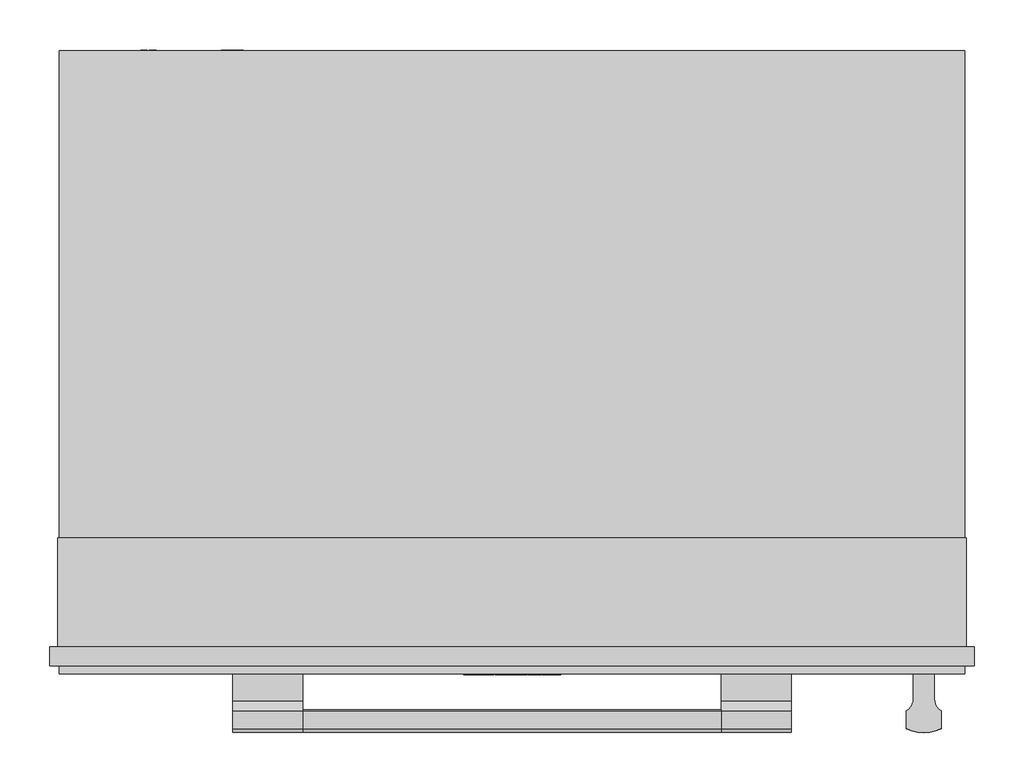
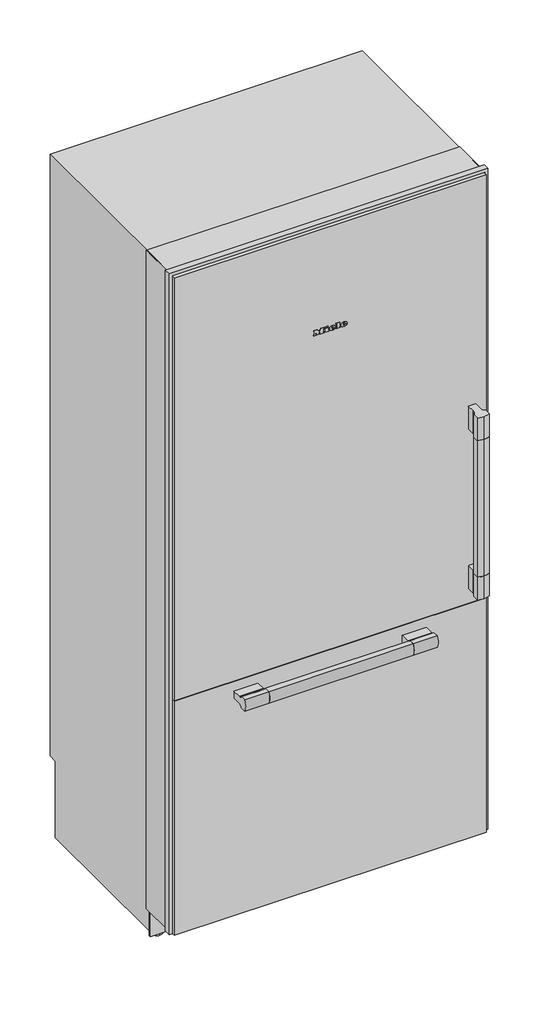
# Not in any storey: 1 proxy.
"""IFC4 building model written with IfcOpenShell, lengths in millimetres."""

from ifc_helpers import new_model, si_unit, origin, place, context, project, spatial, transform, mapped, element, save
from components import specialty_equipment_9384840f

model = new_model("IFC4")

# Units and contexts
model_context = context("Model", 3, world=origin())
ifc_project = project(units=[si_unit("LENGTHUNIT", "METRE", prefix="MILLI")], contexts=[model_context])

# Site, building
site = spatial("IfcSite", under=ifc_project)
building = spatial("IfcBuilding", under=site)

# Proxy
placement = place(None, origin())
specialty_equipment_shape = specialty_equipment_9384840f(model_context)
element("IfcBuildingElementProxy", 1, Name="11502970_USA_KF2912SF : 38291211_USA_11502970_KF2912SF", ObjectType="11502970_USA_KF2912SF : 38291211_USA_11502970_KF2912SF", at=placement, inside=building, context=model_context, shape_type="MappedRepresentation", body=[
    mapped(specialty_equipment_shape, transform((0.0, 0.0, 0.0), x_axis=(1.0, 0.0, 0.0), y_axis=(0.0, 1.0, 0.0), z_axis=(0.0, 0.0, 1.0))),
])

save(model, "model.ifc")
